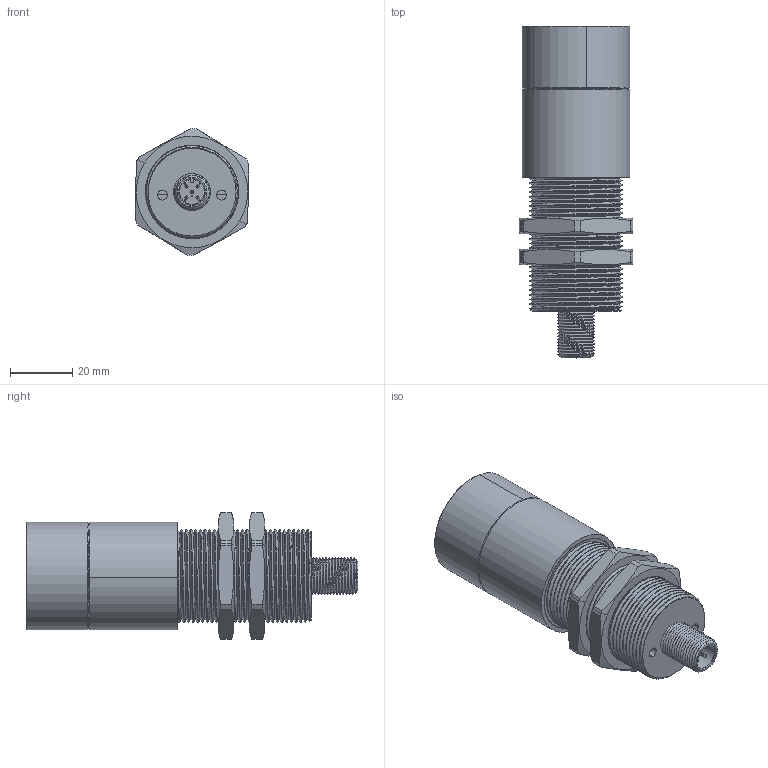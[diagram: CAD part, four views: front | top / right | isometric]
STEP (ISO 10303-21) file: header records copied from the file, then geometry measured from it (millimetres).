
FILE_DESCRIPTION (( 'STEP AP214' ), '1' );
FILE_NAME ('SX30 G2.STEP', '2022-08-01T18:44:30', ( '' ), ( '' ), 'SwSTEP 2.0', 'SolidWorks 2022', '' );
FILE_SCHEMA (( 'AUTOMOTIVE_DESIGN' ));
Length unit declared in the file: millimetre
Products named in the file (14): 00363-101_00363-101; M30x1,5 Nut_M30x1,5 Nut; 00363-105_00363-105; Carclo - 10193_Carclo - 10193; PCB_PCB; 9262K649_9262K649; Carclo - 10149_Carclo - 10149; PCB-LED-Standard_PCB-LED-Standard; LED GOLDEN dragon_LED GOLDEN dragon; 00363-102_00363-102; O-Ring Standard End _O-Ring Standard End ; ERNI - 225251_ERNI - 225251; SX30 G2; Standard Lens_Standard Lens
Assembly tree (14 placements, depth 2):
  SX30 G2
    00363-101_00363-101
    ERNI - 225251_ERNI - 225251
    PCB_PCB
    9262K649_9262K649
    M30x1,5 Nut_M30x1,5 Nut  x2
    PCB-LED-Standard_PCB-LED-Standard
    LED GOLDEN dragon_LED GOLDEN dragon
    00363-105_00363-105
    Carclo - 10149_Carclo - 10149
    Carclo - 10193_Carclo - 10193
    O-Ring Standard End _O-Ring Standard End 
    Standard Lens_Standard Lens
    00363-102_00363-102
Bounding box: 36.51 x 106.58 x 40.75 mm (x, y, z)
Volume: 42987.6 mm3; surface area: 48528.1 mm2
Topology: 15 solids, 15 shells, 1591 faces, 4283 edges, 2807 vertices
Faces by surface type: plane 819, cylinder 381, bspline 270, cone 94, torus 27
Entity records: 95324 total; most frequent: CARTESIAN_POINT 46904, ORIENTED_EDGE 8368, DIRECTION 6327, EDGE_CURVE 4184, VERTEX_POINT 2743, LINE 2501, VECTOR 2501, AXIS2_PLACEMENT_3D 1913
